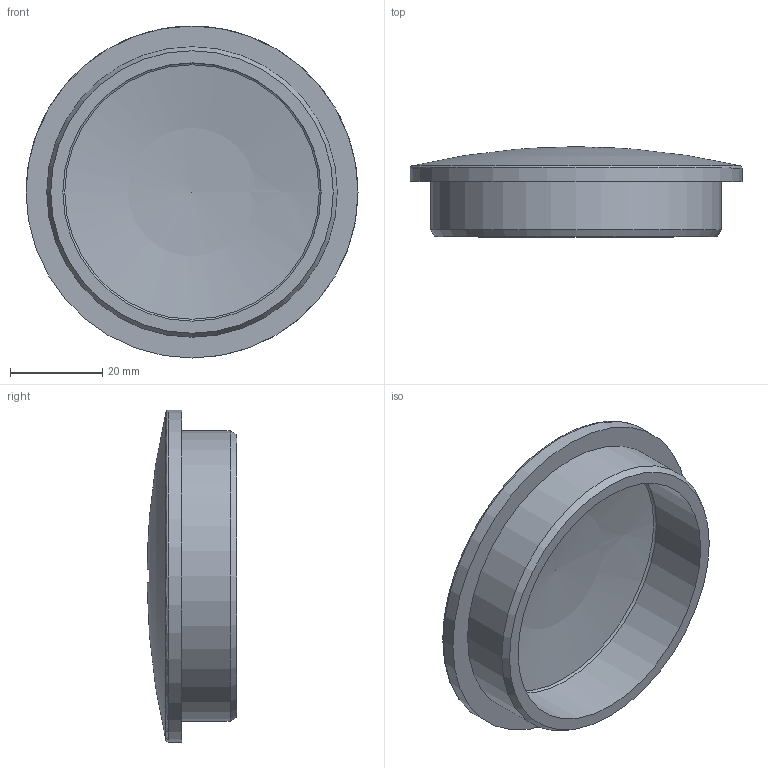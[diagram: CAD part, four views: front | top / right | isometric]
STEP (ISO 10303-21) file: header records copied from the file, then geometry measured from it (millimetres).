
FILE_DESCRIPTION(/* description */ (''),/* implementation_level */ '2;1');
FILE_NAME(/* name */ '4004582.stp',/* time_stamp */ '2019-03-01T15:18:47+01:00',/* author */ (''),/* organization */ (''),/* preprocessor_version */ 'ST-DEVELOPER v16.7',/* originating_system */ 'SIEMENS PLM Software NX 12.0',/* authorisation */ '');
FILE_SCHEMA (('AUTOMOTIVE_DESIGN { 1 0 10303 214 3 1 1 1 }'));
Length unit declared in the file: millimetre
Products named in the file (1): bsom23CC53FBpswy
Bounding box: 72 x 19.49 x 72 mm (x, y, z)
Volume: 21640 mm3; surface area: 13752.7 mm2
Topology: 1 solids, 1 shells, 119 faces, 320 edges, 212 vertices
Faces by surface type: plane 60, extrusion 46, cylinder 7, sphere 3, torus 2, cone 1
Full cylindrical faces by diameter (mm): 56 x1, 63 x1, 72 x1
Entity records: 4603 total; most frequent: CARTESIAN_POINT 1855, ORIENTED_EDGE 618, DIRECTION 424, EDGE_CURVE 309, VERTEX_POINT 209, B_SPLINE_CURVE_WITH_KNOTS 188, VECTOR 150, AXIS2_PLACEMENT_3D 137
